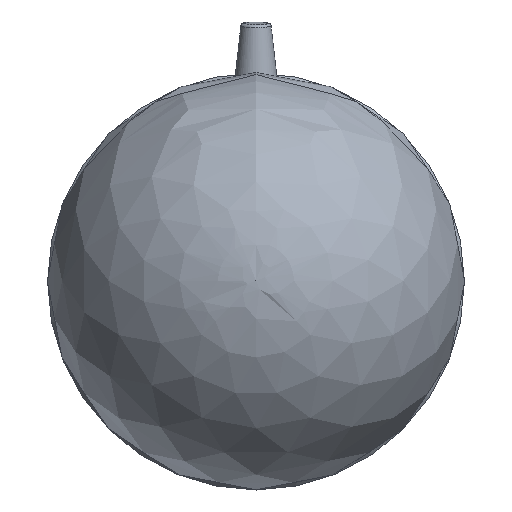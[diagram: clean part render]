
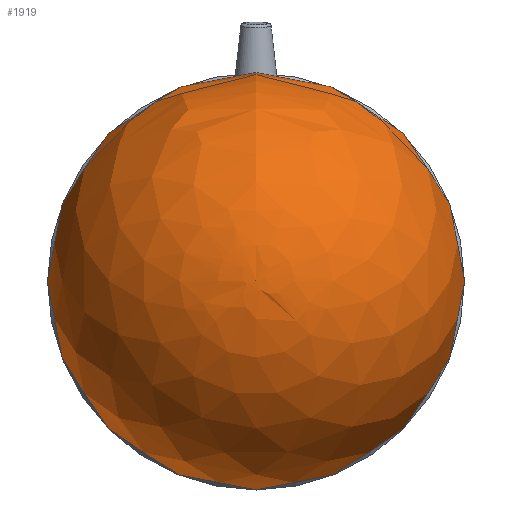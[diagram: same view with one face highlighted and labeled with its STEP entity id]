
A CAD part, top view. The second image highlights one B-rep face of the part: STEP entity #1919.
In plain terms, the highlighted free-form (B-spline) face has degree [2, 2] with [5, 9] control points.
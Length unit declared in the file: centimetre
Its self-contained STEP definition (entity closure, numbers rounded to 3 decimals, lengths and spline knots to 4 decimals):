
#1858 = CARTESIAN_POINT ('', (0., 0.0001, 17.4727));
#1859 = VERTEX_POINT ('', #1858);
#1860 = CARTESIAN_POINT ('', (0., 0., 3.4727));
#1861 = VERTEX_POINT ('', #1860);
#1862 = CARTESIAN_POINT ('', (0., 0.0001, 17.4727));
#1863 = CARTESIAN_POINT ('', (0., 7.0001, 17.4727));
#1864 = CARTESIAN_POINT ('', (0., 7.0001, 10.4727));
#1865 = CARTESIAN_POINT ('', (0., 7., 3.4727));
#1866 = CARTESIAN_POINT ('', (0., 0., 3.4727));
#1867 = (
   BOUNDED_CURVE ()
   B_SPLINE_CURVE (2, (#1862, #1863, #1864, #1865, #1866), .UNSPECIFIED., .F., .U.)
   B_SPLINE_CURVE_WITH_KNOTS ((3, 2, 3), (0., 0.5, 1.), .UNSPECIFIED.)
   CURVE ()
   GEOMETRIC_REPRESENTATION_ITEM ()
   RATIONAL_B_SPLINE_CURVE ((1., 0.707, 1., 0.707, 1.))
   REPRESENTATION_ITEM ('')
);
#1868 = EDGE_CURVE ('', #1859, #1861, #1867, .T.);
#1869 = ORIENTED_EDGE ('', *, *, #1868, .T.);
#1870 = ORIENTED_EDGE ('', *, *, #1868, .F.);
#1871 = EDGE_LOOP ('', (#1869, #1870));
#1872 = FACE_OUTER_BOUND ('', #1871, .T.);
#1873 = CARTESIAN_POINT ('', (0., 0.0001, 17.4727));
#1874 = CARTESIAN_POINT ('', (0., 0.0001, 17.4727));
#1875 = CARTESIAN_POINT ('', (0., 0.0001, 17.4727));
#1876 = CARTESIAN_POINT ('', (0., 0.0001, 17.4727));
#1877 = CARTESIAN_POINT ('', (0., 0.0001, 17.4727));
#1878 = CARTESIAN_POINT ('', (0., 0.0001, 17.4727));
#1879 = CARTESIAN_POINT ('', (0., 0.0001, 17.4727));
#1880 = CARTESIAN_POINT ('', (0., 0.0001, 17.4727));
#1881 = CARTESIAN_POINT ('', (0., 0.0001, 17.4727));
#1882 = CARTESIAN_POINT ('', (0., 7.0001, 17.4727));
#1883 = CARTESIAN_POINT ('', (-7., 7.0001, 17.4727));
#1884 = CARTESIAN_POINT ('', (-7., 0.0001, 17.4727));
#1885 = CARTESIAN_POINT ('', (-7., -6.9999, 17.4728));
#1886 = CARTESIAN_POINT ('', (0., -6.9999, 17.4728));
#1887 = CARTESIAN_POINT ('', (7., -6.9999, 17.4728));
#1888 = CARTESIAN_POINT ('', (7., 0.0001, 17.4727));
#1889 = CARTESIAN_POINT ('', (7., 7.0001, 17.4727));
#1890 = CARTESIAN_POINT ('', (0., 7.0001, 17.4727));
#1891 = CARTESIAN_POINT ('', (0., 7.0001, 10.4727));
#1892 = CARTESIAN_POINT ('', (-7., 7.0001, 10.4727));
#1893 = CARTESIAN_POINT ('', (-7., 0.0001, 10.4727));
#1894 = CARTESIAN_POINT ('', (-7., -6.9999, 10.4728));
#1895 = CARTESIAN_POINT ('', (0., -6.9999, 10.4728));
#1896 = CARTESIAN_POINT ('', (7., -6.9999, 10.4728));
#1897 = CARTESIAN_POINT ('', (7., 0.0001, 10.4727));
#1898 = CARTESIAN_POINT ('', (7., 7.0001, 10.4727));
#1899 = CARTESIAN_POINT ('', (0., 7.0001, 10.4727));
#1900 = CARTESIAN_POINT ('', (0., 7., 3.4727));
#1901 = CARTESIAN_POINT ('', (-7., 7., 3.4727));
#1902 = CARTESIAN_POINT ('', (-7., 0., 3.4727));
#1903 = CARTESIAN_POINT ('', (-7., -7., 3.4728));
#1904 = CARTESIAN_POINT ('', (0., -7., 3.4728));
#1905 = CARTESIAN_POINT ('', (7., -7., 3.4728));
#1906 = CARTESIAN_POINT ('', (7., 0., 3.4727));
#1907 = CARTESIAN_POINT ('', (7., 7., 3.4727));
#1908 = CARTESIAN_POINT ('', (0., 7., 3.4727));
#1909 = CARTESIAN_POINT ('', (0., 0., 3.4727));
#1910 = CARTESIAN_POINT ('', (0., 0., 3.4727));
#1911 = CARTESIAN_POINT ('', (0., 0., 3.4727));
#1912 = CARTESIAN_POINT ('', (0., 0., 3.4727));
#1913 = CARTESIAN_POINT ('', (0., 0., 3.4727));
#1914 = CARTESIAN_POINT ('', (0., 0., 3.4727));
#1915 = CARTESIAN_POINT ('', (0., 0., 3.4727));
#1916 = CARTESIAN_POINT ('', (0., 0., 3.4727));
#1917 = CARTESIAN_POINT ('', (0., 0., 3.4727));
#1918 = (
   BOUNDED_SURFACE ()
   B_SPLINE_SURFACE (2, 2, ((#1873, #1874, #1875, #1876, #1877, #1878, #1879, #1880, #1881), (#1882, #1883, #1884, #1885, #1886, #1887, #1888, #1889, #1890), (#1891, #1892, #1893, #1894, #1895, #1896, #1897, #1898, #1899), (#1900, #1901, #1902, #1903, #1904, #1905, #1906, #1907, #1908), (#1909, #1910, #1911, #1912, #1913, #1914, #1915, #1916, #1917)), .UNSPECIFIED., .F., .T., .U.)
   B_SPLINE_SURFACE_WITH_KNOTS ((3, 2, 3), (3, 2, 2, 2, 3), (0., 0.5, 1.), (0., 0.25, 0.5, 0.75, 1.), .UNSPECIFIED.)
   SURFACE ()
   GEOMETRIC_REPRESENTATION_ITEM ()
   RATIONAL_B_SPLINE_SURFACE (((1., 0.707, 1., 0.707, 1., 0.707, 1., 0.707, 1.), (0.707, 0.5, 0.707, 0.5, 0.707, 0.5, 0.707, 0.5, 0.707), (1., 0.707, 1., 0.707, 1., 0.707, 1., 0.707, 1.), (0.707, 0.5, 0.707, 0.5, 0.707, 0.5, 0.707, 0.5, 0.707), (1., 0.707, 1., 0.707, 1., 0.707, 1., 0.707, 1.)))
   REPRESENTATION_ITEM ('')
);
#1919 = ADVANCED_FACE ('', (#1872), #1918, .T.);
